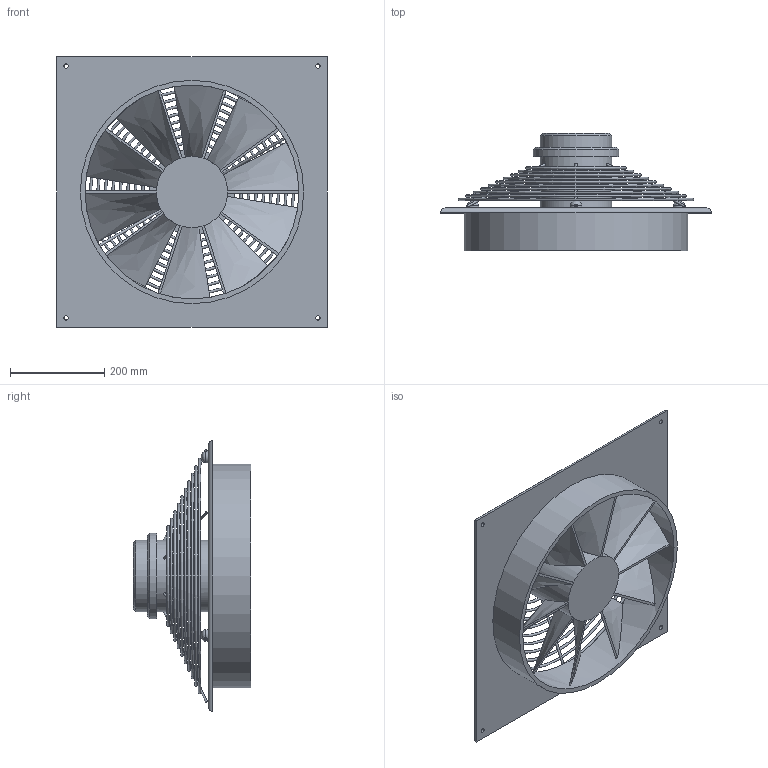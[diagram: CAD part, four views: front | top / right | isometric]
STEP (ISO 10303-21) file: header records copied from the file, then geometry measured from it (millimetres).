
FILE_DESCRIPTION(/* description */ (''),/* implementation_level */ '2;1');
FILE_NAME(/* name */ 'Z:\Output\HQW EC 450 B-04931-002.stp',/* time_stamp */ '2017-05-04T17:01:28+02:00',/* author */ ('pareshmistry'),/* organization */ (''),/* preprocessor_version */ 'ST-DEVELOPER v16.5',/* originating_system */ 'Autodesk Inventor 2017',/* authorisation */ '');
FILE_SCHEMA (('AUTOMOTIVE_DESIGN { 1 0 10303 214 3 1 1 }'));
Length unit declared in the file: millimetre
Products named in the file (1): HQW EC 450
Bounding box: 575 x 249 x 575 mm (x, y, z)
Volume: 7988342.9 mm3; surface area: 1287923.1 mm2
Topology: 11 solids, 11 shells, 113 faces, 310 edges, 197 vertices
Faces by surface type: bspline 43, plane 32, cylinder 26, torus 10, cone 2
Full cylindrical faces by diameter (mm): 5 x9, 9 x4, 25 x3, 151.333 x2, 182.55 x1, 454 x1, 474 x1
Entity records: 4256 total; most frequent: CARTESIAN_POINT 1896, ORIENTED_EDGE 514, DIRECTION 398, EDGE_CURVE 247, VERTEX_POINT 168, AXIS2_PLACEMENT_3D 155, EDGE_LOOP 147, ADVANCED_FACE 112
